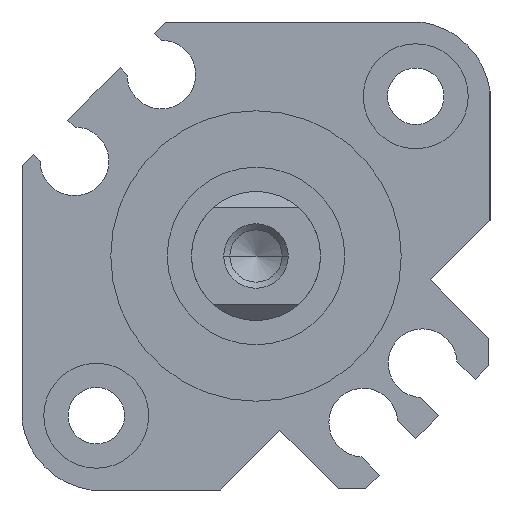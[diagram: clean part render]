
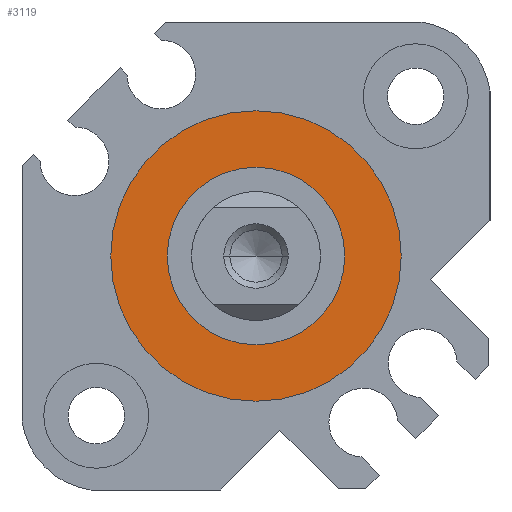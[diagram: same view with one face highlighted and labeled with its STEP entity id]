
A CAD part, left-side view. The second image highlights one B-rep face of the part: STEP entity #3119.
In plain terms, the highlighted planar face has unit normal (-1, 0, 0).
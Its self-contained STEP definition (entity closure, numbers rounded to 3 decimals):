
#134 = CARTESIAN_POINT ( 'NONE',  ( 1.1, 0., 0. ) ) ;
#225 = CARTESIAN_POINT ( 'NONE',  ( 1.1, 0., 0. ) ) ;
#246 = AXIS2_PLACEMENT_3D ( 'NONE', #1860, #1119, #854 ) ;
#295 = VERTEX_POINT ( 'NONE', #1109 ) ;
#489 = EDGE_CURVE ( 'NONE', #2232, #2059, #2460, .T. ) ;
#571 = CARTESIAN_POINT ( 'NONE',  ( 1.1, 0., 5.5 ) ) ;
#668 = CIRCLE ( 'NONE', #3372, 5.5 ) ;
#689 = FACE_OUTER_BOUND ( 'NONE', #1414, .T. ) ;
#757 = CARTESIAN_POINT ( 'NONE',  ( 1.1, 0., 9. ) ) ;
#832 = EDGE_CURVE ( 'NONE', #2059, #2232, #1562, .T. ) ;
#854 = DIRECTION ( 'NONE',  ( 0., 0., -1. ) ) ;
#973 = ORIENTED_EDGE ( 'NONE', *, *, #3366, .T. ) ;
#1013 = AXIS2_PLACEMENT_3D ( 'NONE', #225, #1294, #2338 ) ;
#1030 = CIRCLE ( 'NONE', #246, 5.5 ) ;
#1047 = ORIENTED_EDGE ( 'NONE', *, *, #489, .F. ) ;
#1109 = CARTESIAN_POINT ( 'NONE',  ( 1.1, 0., -5.5 ) ) ;
#1119 = DIRECTION ( 'NONE',  ( 1., 0., 0. ) ) ;
#1185 = DIRECTION ( 'NONE',  ( 0., 0., -1. ) ) ;
#1199 = DIRECTION ( 'NONE',  ( 1., 0., 0. ) ) ;
#1279 = ORIENTED_EDGE ( 'NONE', *, *, #832, .F. ) ;
#1294 = DIRECTION ( 'NONE',  ( 1., 0., 0. ) ) ;
#1414 = EDGE_LOOP ( 'NONE', ( #1047, #1279 ) ) ;
#1556 = EDGE_LOOP ( 'NONE', ( #2199, #973 ) ) ;
#1562 = CIRCLE ( 'NONE', #1013, 9. ) ;
#1713 = DIRECTION ( 'NONE',  ( 1., 0., 0. ) ) ;
#1769 = DIRECTION ( 'NONE',  ( 0., 0., -1. ) ) ;
#1818 = EDGE_CURVE ( 'NONE', #3321, #295, #668, .T. ) ;
#1860 = CARTESIAN_POINT ( 'NONE',  ( 1.1, 0., 0. ) ) ;
#1963 = FACE_BOUND ( 'NONE', #1556, .T. ) ;
#2059 = VERTEX_POINT ( 'NONE', #2085 ) ;
#2085 = CARTESIAN_POINT ( 'NONE',  ( 1.1, 0., -9. ) ) ;
#2199 = ORIENTED_EDGE ( 'NONE', *, *, #1818, .T. ) ;
#2232 = VERTEX_POINT ( 'NONE', #757 ) ;
#2292 = DIRECTION ( 'NONE',  ( 0., 1., 0. ) ) ;
#2338 = DIRECTION ( 'NONE',  ( 0., 0., -1. ) ) ;
#2460 = CIRCLE ( 'NONE', #3171, 9. ) ;
#2504 = CARTESIAN_POINT ( 'NONE',  ( 1.1, 0., 0. ) ) ;
#2527 = DIRECTION ( 'NONE',  ( 1., 0., 0. ) ) ;
#2787 = CARTESIAN_POINT ( 'NONE',  ( 1.1, 0., 0. ) ) ;
#2813 = PLANE ( 'NONE',  #2901 ) ;
#2901 = AXIS2_PLACEMENT_3D ( 'NONE', #2504, #1713, #2292 ) ;
#3119 = ADVANCED_FACE ( 'NONE', ( #689, #1963 ), #2813, .F. ) ;
#3171 = AXIS2_PLACEMENT_3D ( 'NONE', #134, #1199, #1769 ) ;
#3321 = VERTEX_POINT ( 'NONE', #571 ) ;
#3366 = EDGE_CURVE ( 'NONE', #295, #3321, #1030, .T. ) ;
#3372 = AXIS2_PLACEMENT_3D ( 'NONE', #2787, #2527, #1185 ) ;
